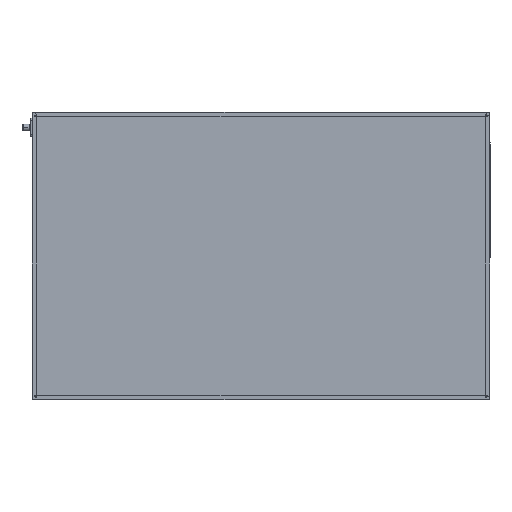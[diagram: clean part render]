
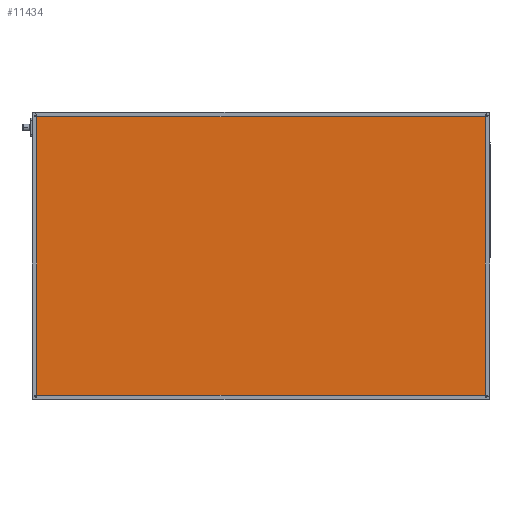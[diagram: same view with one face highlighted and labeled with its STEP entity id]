
A CAD part, top view. The second image highlights one B-rep face of the part: STEP entity #11434.
In plain terms, the highlighted planar face has unit normal (0, 0, 1).
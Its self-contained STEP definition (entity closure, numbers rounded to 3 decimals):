
#491 = EDGE_CURVE ( 'NONE', #7448, #9366, #11487, .T. ) ;
#931 = ORIENTED_EDGE ( 'NONE', *, *, #1462, .T. ) ;
#1462 = EDGE_CURVE ( 'NONE', #9366, #6889, #7590, .T. ) ;
#1758 = EDGE_LOOP ( 'NONE', ( #17043, #10388, #15242, #931 ) ) ;
#2223 = DIRECTION ( 'NONE',  ( -1., 0., 0. ) ) ;
#2790 = VECTOR ( 'NONE', #13527, 1000. ) ;
#3086 = FACE_OUTER_BOUND ( 'NONE', #1758, .T. ) ;
#3401 = CARTESIAN_POINT ( 'NONE',  ( 0., 4., 41.85 ) ) ;
#4041 = VECTOR ( 'NONE', #5027, 1000. ) ;
#4194 = LINE ( 'NONE', #9526, #2790 ) ;
#4640 = CARTESIAN_POINT ( 'NONE',  ( 0., 0., 41.85 ) ) ;
#4956 = CARTESIAN_POINT ( 'NONE',  ( 796., 4., 41.85 ) ) ;
#5027 = DIRECTION ( 'NONE',  ( 0., -1., 0. ) ) ;
#6358 = DIRECTION ( 'NONE',  ( 1., 0., 0. ) ) ;
#6507 = CARTESIAN_POINT ( 'NONE',  ( 4., 0., 41.85 ) ) ;
#6889 = VERTEX_POINT ( 'NONE', #4956 ) ;
#7350 = DIRECTION ( 'NONE',  ( 0., 0., -1. ) ) ;
#7414 = VECTOR ( 'NONE', #6358, 1000. ) ;
#7448 = VERTEX_POINT ( 'NONE', #14946 ) ;
#7590 = LINE ( 'NONE', #3401, #7414 ) ;
#7758 = CARTESIAN_POINT ( 'NONE',  ( 4., 4., 41.85 ) ) ;
#7790 = VECTOR ( 'NONE', #2223, 1000. ) ;
#9366 = VERTEX_POINT ( 'NONE', #7758 ) ;
#9526 = CARTESIAN_POINT ( 'NONE',  ( 796., 0., 41.85 ) ) ;
#10162 = LINE ( 'NONE', #15465, #7790 ) ;
#10388 = ORIENTED_EDGE ( 'NONE', *, *, #11195, .T. ) ;
#10598 = AXIS2_PLACEMENT_3D ( 'NONE', #4640, #7350, #12662 ) ;
#11195 = EDGE_CURVE ( 'NONE', #16248, #7448, #10162, .T. ) ;
#11434 = ADVANCED_FACE ( 'NONE', ( #3086 ), #15107, .F. ) ;
#11487 = LINE ( 'NONE', #6507, #4041 ) ;
#11704 = EDGE_CURVE ( 'NONE', #6889, #16248, #4194, .T. ) ;
#12662 = DIRECTION ( 'NONE',  ( -1., 0., 0. ) ) ;
#13527 = DIRECTION ( 'NONE',  ( 0., 1., 0. ) ) ;
#14946 = CARTESIAN_POINT ( 'NONE',  ( 4., 496., 41.85 ) ) ;
#15107 = PLANE ( 'NONE',  #10598 ) ;
#15242 = ORIENTED_EDGE ( 'NONE', *, *, #491, .T. ) ;
#15294 = CARTESIAN_POINT ( 'NONE',  ( 796., 496., 41.85 ) ) ;
#15465 = CARTESIAN_POINT ( 'NONE',  ( 0., 496., 41.85 ) ) ;
#16248 = VERTEX_POINT ( 'NONE', #15294 ) ;
#17043 = ORIENTED_EDGE ( 'NONE', *, *, #11704, .T. ) ;
